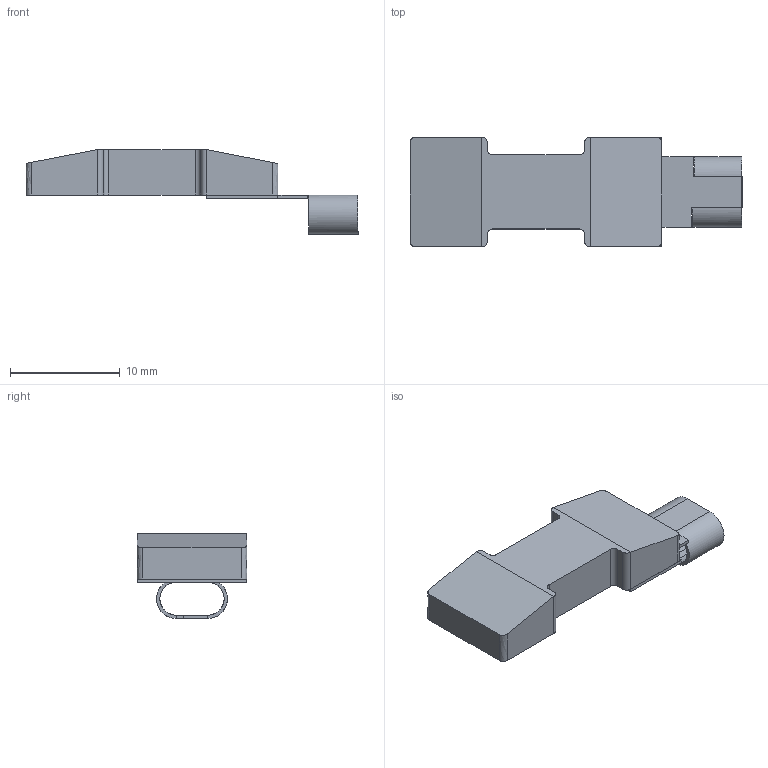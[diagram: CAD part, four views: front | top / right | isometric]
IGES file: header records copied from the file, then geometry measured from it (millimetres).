
Start section: SolidWorks IGES file using analytic representation for surfaces
Global section: file name: C:\Users\Kamkarian\Desktop\PowerFeedRectangle042210.IGS; native system: SolidWorks 2016; preprocessor: SolidWorks 2016; author: Kamkarian; date: 180617.033111; units: millimetre
Bounding box: 30.31 x 10 x 7.75 mm (x, y, z)
Surface area: 999.4 mm2 (no closed solid volume)
Topology: 0 solids, 0 shells, 60 faces, 376 edges, 376 vertices
Faces by surface type: bspline 44, revolution 16
